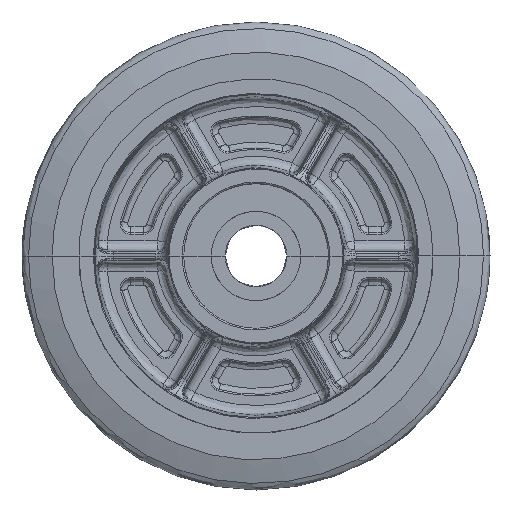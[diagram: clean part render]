
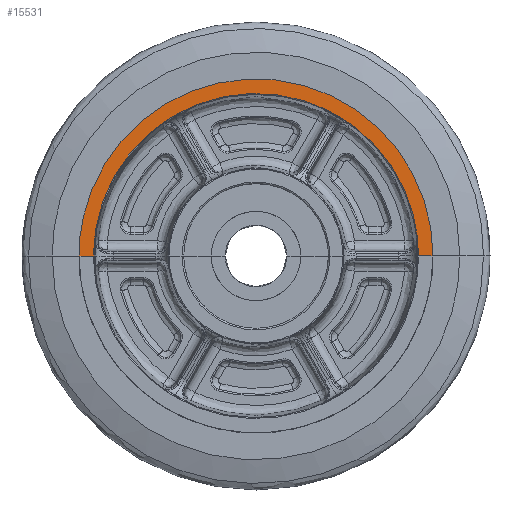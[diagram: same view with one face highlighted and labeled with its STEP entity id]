
A CAD part, left-side view. The second image highlights one B-rep face of the part: STEP entity #15531.
In plain terms, the highlighted planar face has unit normal (-1, 0, 0).
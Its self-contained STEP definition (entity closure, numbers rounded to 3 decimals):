
#2600 = EDGE_CURVE ( 'NONE', #39869, #39870, #54522, .T. ) ;
#7700 = FACE_OUTER_BOUND ( 'NONE', #53260, .T. ) ;
#8411 = ORIENTED_EDGE ( 'NONE', *, *, #52567, .T. ) ;
#8454 = ORIENTED_EDGE ( 'NONE', *, *, #52653, .T. ) ;
#8481 = ORIENTED_EDGE ( 'NONE', *, *, #52580, .T. ) ;
#8878 = ORIENTED_EDGE ( 'NONE', *, *, #2600, .T. ) ;
#12440 = AXIS2_PLACEMENT_3D ( 'NONE', #12681, #12800, #12801 ) ;
#12681 = CARTESIAN_POINT ( 'NONE',  ( -25., 52.785, 0. ) ) ;
#12798 = PLANE ( 'NONE',  #12440 ) ;
#12800 = DIRECTION ( 'NONE',  ( -1., 0., 0. ) ) ;
#12801 = DIRECTION ( 'NONE',  ( 0., -1., 0. ) ) ;
#15531 = ADVANCED_FACE ( 'NONE', ( #7700 ), #12798, .T. ) ;
#34003 = CARTESIAN_POINT ( 'NONE',  ( -25., 52.785, 0. ) ) ;
#34008 = CARTESIAN_POINT ( 'NONE',  ( -25., 52.785, 9.266 ) ) ;
#34009 = CARTESIAN_POINT ( 'NONE',  ( -25., 50.346, 18.368 ) ) ;
#34010 = CARTESIAN_POINT ( 'NONE',  ( -25., 45.713, 26.392 ) ) ;
#34011 = CARTESIAN_POINT ( 'NONE',  ( -25., 41.08, 34.417 ) ) ;
#34012 = CARTESIAN_POINT ( 'NONE',  ( -25., 34.417, 41.08 ) ) ;
#34013 = CARTESIAN_POINT ( 'NONE',  ( -25., 26.392, 45.713 ) ) ;
#34014 = CARTESIAN_POINT ( 'NONE',  ( -25., 18.368, 50.346 ) ) ;
#34015 = CARTESIAN_POINT ( 'NONE',  ( -25., 9.266, 52.785 ) ) ;
#34016 = CARTESIAN_POINT ( 'NONE',  ( -25., 0., 52.785 ) ) ;
#34017 = CARTESIAN_POINT ( 'NONE',  ( -25., -9.266, 52.785 ) ) ;
#34018 = CARTESIAN_POINT ( 'NONE',  ( -25., -18.368, 50.346 ) ) ;
#34019 = CARTESIAN_POINT ( 'NONE',  ( -25., -26.392, 45.713 ) ) ;
#34020 = CARTESIAN_POINT ( 'NONE',  ( -25., -34.417, 41.08 ) ) ;
#34021 = CARTESIAN_POINT ( 'NONE',  ( -25., -41.08, 34.417 ) ) ;
#34022 = CARTESIAN_POINT ( 'NONE',  ( -25., -45.713, 26.392 ) ) ;
#34023 = CARTESIAN_POINT ( 'NONE',  ( -25., -50.346, 18.368 ) ) ;
#34024 = CARTESIAN_POINT ( 'NONE',  ( -25., -52.785, 9.266 ) ) ;
#34025 = CARTESIAN_POINT ( 'NONE',  ( -25., -52.785, 0. ) ) ;
#37681 = CARTESIAN_POINT ( 'NONE',  ( -25., -57.5, 0. ) ) ;
#37686 = CARTESIAN_POINT ( 'NONE',  ( -25., -57.5, 10.093 ) ) ;
#37687 = CARTESIAN_POINT ( 'NONE',  ( -25., -54.843, 20.009 ) ) ;
#37688 = CARTESIAN_POINT ( 'NONE',  ( -25., -49.796, 28.75 ) ) ;
#37689 = CARTESIAN_POINT ( 'NONE',  ( -25., -44.75, 37.491 ) ) ;
#37690 = CARTESIAN_POINT ( 'NONE',  ( -25., -37.491, 44.75 ) ) ;
#37691 = CARTESIAN_POINT ( 'NONE',  ( -25., -28.75, 49.796 ) ) ;
#37692 = CARTESIAN_POINT ( 'NONE',  ( -25., -20.009, 54.843 ) ) ;
#37693 = CARTESIAN_POINT ( 'NONE',  ( -25., -10.093, 57.5 ) ) ;
#37694 = CARTESIAN_POINT ( 'NONE',  ( -25., 0., 57.5 ) ) ;
#37695 = CARTESIAN_POINT ( 'NONE',  ( -25., 10.093, 57.5 ) ) ;
#37696 = CARTESIAN_POINT ( 'NONE',  ( -25., 20.009, 54.843 ) ) ;
#37697 = CARTESIAN_POINT ( 'NONE',  ( -25., 28.75, 49.796 ) ) ;
#37698 = CARTESIAN_POINT ( 'NONE',  ( -25., 37.491, 44.75 ) ) ;
#37699 = CARTESIAN_POINT ( 'NONE',  ( -25., 44.75, 37.491 ) ) ;
#37700 = CARTESIAN_POINT ( 'NONE',  ( -25., 49.796, 28.75 ) ) ;
#37701 = CARTESIAN_POINT ( 'NONE',  ( -25., 54.843, 20.009 ) ) ;
#37702 = CARTESIAN_POINT ( 'NONE',  ( -25., 57.5, 10.093 ) ) ;
#37703 = CARTESIAN_POINT ( 'NONE',  ( -25., 57.5, 0. ) ) ;
#37760 = CARTESIAN_POINT ( 'NONE',  ( -25., 57.5, 0. ) ) ;
#37771 = CARTESIAN_POINT ( 'NONE',  ( -25., 55.928, 0. ) ) ;
#37772 = CARTESIAN_POINT ( 'NONE',  ( -25., 54.356, 0. ) ) ;
#37773 = CARTESIAN_POINT ( 'NONE',  ( -25., 52.785, 0. ) ) ;
#39869 = VERTEX_POINT ( 'NONE', #55776 ) ;
#39870 = VERTEX_POINT ( 'NONE', #55777 ) ;
#39912 = VERTEX_POINT ( 'NONE', #55819 ) ;
#39913 = VERTEX_POINT ( 'NONE', #55820 ) ;
#44261 = B_SPLINE_CURVE_WITH_KNOTS ( 'NONE', 3,
 ( #37681, #37686, #37687, #37688, #37689, #37690, #37691, #37692, #37693, #37694, #37695, #37696, #37697, #37698, #37699, #37700, #37701, #37702, #37703 ),
 .UNSPECIFIED., .F., .F.,
 ( 4, 3, 3, 3, 3, 3, 4 ),
 ( 0., 0.167, 0.333, 0.5, 0.667, 0.833, 1. ),
 .UNSPECIFIED. ) ;
#44272 = B_SPLINE_CURVE_WITH_KNOTS ( 'NONE', 3,
 ( #37760, #37771, #37772, #37773 ),
 .UNSPECIFIED., .F., .F.,
 ( 4, 4 ),
 ( 0., 1. ),
 .UNSPECIFIED. ) ;
#44337 = B_SPLINE_CURVE_WITH_KNOTS ( 'NONE', 3,
 ( #62525, #62598, #62599, #62600 ),
 .UNSPECIFIED., .F., .F.,
 ( 4, 4 ),
 ( 0., 1. ),
 .UNSPECIFIED. ) ;
#52567 = EDGE_CURVE ( 'NONE', #39913, #39912, #44261, .T. ) ;
#52580 = EDGE_CURVE ( 'NONE', #39912, #39869, #44272, .T. ) ;
#52653 = EDGE_CURVE ( 'NONE', #39870, #39913, #44337, .T. ) ;
#53260 = EDGE_LOOP ( 'NONE', ( #8878, #8454, #8411, #8481 ) ) ;
#54522 = B_SPLINE_CURVE_WITH_KNOTS ( 'NONE', 3,
 ( #34003, #34008, #34009, #34010, #34011, #34012, #34013, #34014, #34015, #34016, #34017, #34018, #34019, #34020, #34021, #34022, #34023, #34024, #34025 ),
 .UNSPECIFIED., .F., .F.,
 ( 4, 3, 3, 3, 3, 3, 4 ),
 ( 0., 0.167, 0.333, 0.5, 0.667, 0.833, 1. ),
 .UNSPECIFIED. ) ;
#55776 = CARTESIAN_POINT ( 'NONE',  ( -25., 52.785, 0. ) ) ;
#55777 = CARTESIAN_POINT ( 'NONE',  ( -25., -52.785, 0. ) ) ;
#55819 = CARTESIAN_POINT ( 'NONE',  ( -25., 57.5, 0. ) ) ;
#55820 = CARTESIAN_POINT ( 'NONE',  ( -25., -57.5, 0. ) ) ;
#62525 = CARTESIAN_POINT ( 'NONE',  ( -25., -52.785, 0. ) ) ;
#62598 = CARTESIAN_POINT ( 'NONE',  ( -25., -54.356, 0. ) ) ;
#62599 = CARTESIAN_POINT ( 'NONE',  ( -25., -55.928, 0. ) ) ;
#62600 = CARTESIAN_POINT ( 'NONE',  ( -25., -57.5, 0. ) ) ;
